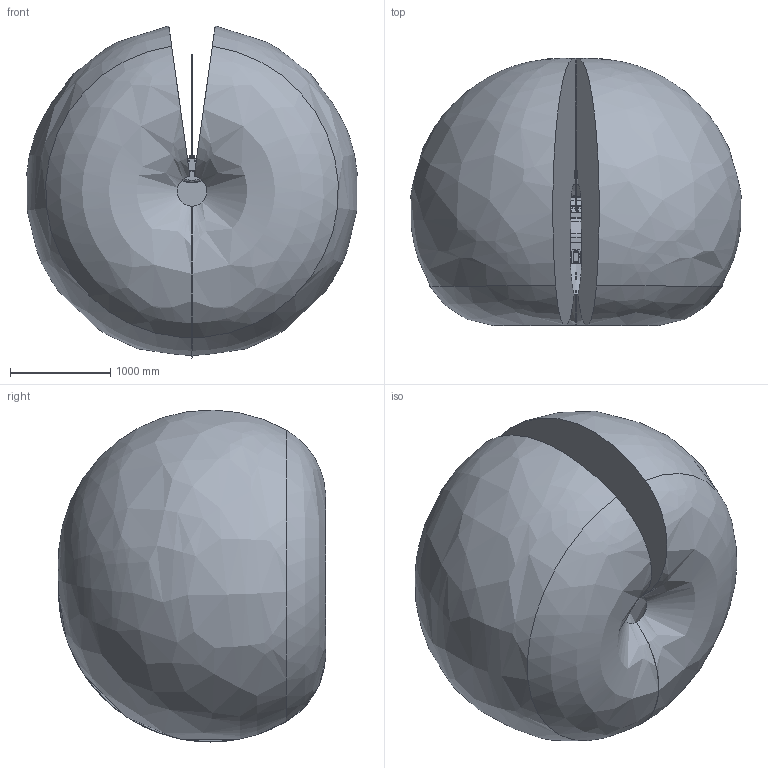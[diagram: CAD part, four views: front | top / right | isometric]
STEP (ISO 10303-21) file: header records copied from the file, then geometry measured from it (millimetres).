
FILE_DESCRIPTION((''),'2;1');
FILE_NAME('R20-1600_ASM','2023-10-06T08:43:26',('zty'),(''),'CREO PARAMETRIC BY PTC INC, 2018260','CREO PARAMETRIC BY PTC INC, 2018260','');
FILE_SCHEMA(('CONFIG_CONTROL_DESIGN','SHAPE_APPEARANCE_LAYERS_GROUPS'));
Products named in the file (11): R20-1600_BASE; R20-1600_JOINT1; R20-1600_JOINT2; R20-1600_JOINT3; R20-1600_JOINT4; R20-1600_JOINT5; R20-1600_JOINT6; R20-1600_CABLE; R20-1600_RANGE; R20-1600_RANGE_2; R20-1600_ASM
Assembly tree (10 placements, depth 2):
  R20-1600_ASM
    R20-1600_BASE
    R20-1600_JOINT1
    R20-1600_JOINT2
    R20-1600_JOINT3
    R20-1600_JOINT4
    R20-1600_JOINT5
    R20-1600_JOINT6
    R20-1600_CABLE
    R20-1600_RANGE
    R20-1600_RANGE_2
Bounding box: 3300.47 x 2671.98 x 3319.89 mm (x, y, z)
Volume: 16062856953.6 mm3; surface area: 52322158.4 mm2
Topology: 10 solids, 15 shells, 6290 faces, 16015 edges, 9761 vertices
Faces by surface type: cylinder 1890, bspline 1547, plane 1448, torus 964, cone 352, sphere 87, extrusion 2
Entity records: 265386 total; most frequent: CARTESIAN_POINT 125888, ORIENTED_EDGE 31698, DIRECTION 26185, EDGE_CURVE 15849, AXIS2_PLACEMENT_3D 10638, VERTEX_POINT 9759, EDGE_LOOP 6532, FACE_OUTER_BOUND 6290
